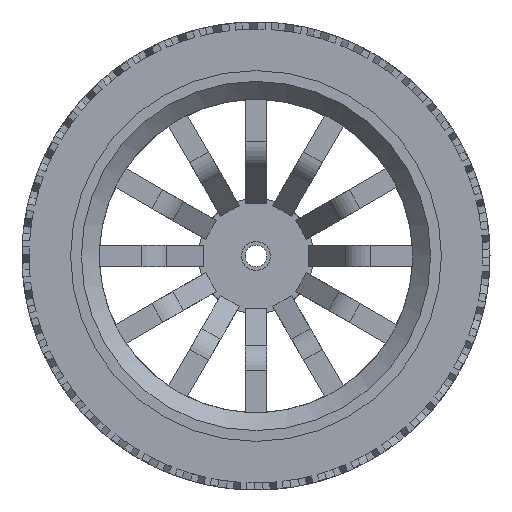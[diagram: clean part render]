
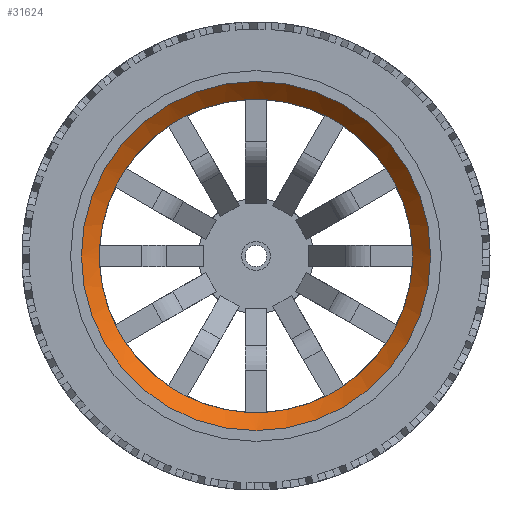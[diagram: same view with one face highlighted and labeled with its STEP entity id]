
A CAD part, front view. The second image highlights one B-rep face of the part: STEP entity #31624.
In plain terms, the highlighted conical face has half-angle 45 degrees and reference radius 23 mm.
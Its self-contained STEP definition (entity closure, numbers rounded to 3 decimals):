
#14=CONICAL_SURFACE('',#33184,23.,0.785);
#3133=FACE_OUTER_BOUND('',#4827,.T.);
#4827=EDGE_LOOP('',(#27846,#27847,#27848,#27849,#27850,#27851,#27852,#27853,
#27854,#27855,#27856,#27857,#27858,#27859,#27860,#27861,#27862,#27863,#27864,
#27865,#27866,#27867,#27868,#27869,#27870,#27871,#27872,#27873));
#8692=LINE('',#64412,#10853);
#10853=VECTOR('',#38423,23.);
#11471=CIRCLE('',#33006,21.75);
#11476=CIRCLE('',#33021,21.75);
#11482=CIRCLE('',#33035,21.75);
#11483=CIRCLE('',#33036,21.75);
#11488=CIRCLE('',#33051,21.75);
#11493=CIRCLE('',#33064,21.75);
#11498=CIRCLE('',#33079,21.75);
#11503=CIRCLE('',#33092,21.75);
#11508=CIRCLE('',#33107,21.75);
#11514=CIRCLE('',#33121,21.75);
#11519=CIRCLE('',#33136,21.75);
#11524=CIRCLE('',#33149,21.75);
#11542=CIRCLE('',#33183,21.75);
#11543=CIRCLE('',#33185,24.25);
#11544=CIRCLE('',#33186,21.75);
#11545=CIRCLE('',#33187,21.75);
#11546=CIRCLE('',#33188,21.75);
#11547=CIRCLE('',#33189,21.75);
#11548=CIRCLE('',#33190,21.75);
#11549=CIRCLE('',#33191,21.75);
#11550=CIRCLE('',#33192,21.75);
#11551=CIRCLE('',#33193,21.75);
#11552=CIRCLE('',#33194,21.75);
#11553=CIRCLE('',#33195,21.75);
#11554=CIRCLE('',#33196,21.75);
#11555=CIRCLE('',#33197,21.75);
#14307=VERTEX_POINT('',#63674);
#14317=VERTEX_POINT('',#63704);
#14332=VERTEX_POINT('',#63743);
#14340=VERTEX_POINT('',#63769);
#14348=VERTEX_POINT('',#63791);
#14359=VERTEX_POINT('',#63823);
#14360=VERTEX_POINT('',#63828);
#14375=VERTEX_POINT('',#63864);
#14383=VERTEX_POINT('',#63890);
#14391=VERTEX_POINT('',#63912);
#14401=VERTEX_POINT('',#63942);
#14415=VERTEX_POINT('',#63979);
#14424=VERTEX_POINT('',#64007);
#14432=VERTEX_POINT('',#64029);
#14442=VERTEX_POINT('',#64059);
#14457=VERTEX_POINT('',#64098);
#14465=VERTEX_POINT('',#64124);
#14473=VERTEX_POINT('',#64146);
#14484=VERTEX_POINT('',#64178);
#14499=VERTEX_POINT('',#64217);
#14507=VERTEX_POINT('',#64243);
#14515=VERTEX_POINT('',#64265);
#14525=VERTEX_POINT('',#64295);
#14549=VERTEX_POINT('',#64381);
#14555=VERTEX_POINT('',#64403);
#14556=VERTEX_POINT('',#64410);
#18734=EDGE_CURVE('',#14307,#14317,#11471,.T.);
#18766=EDGE_CURVE('',#14332,#14340,#11476,.T.);
#18793=EDGE_CURVE('',#14348,#14360,#11482,.T.);
#18794=EDGE_CURVE('',#14360,#14359,#11483,.T.);
#18826=EDGE_CURVE('',#14375,#14383,#11488,.T.);
#18852=EDGE_CURVE('',#14391,#14401,#11493,.T.);
#18884=EDGE_CURVE('',#14415,#14424,#11498,.T.);
#18910=EDGE_CURVE('',#14432,#14442,#11503,.T.);
#18942=EDGE_CURVE('',#14457,#14465,#11508,.T.);
#18969=EDGE_CURVE('',#14473,#14484,#11514,.T.);
#19001=EDGE_CURVE('',#14499,#14507,#11519,.T.);
#19027=EDGE_CURVE('',#14515,#14525,#11524,.T.);
#19089=EDGE_CURVE('',#14549,#14555,#11542,.T.);
#19090=EDGE_CURVE('',#14556,#14556,#11543,.T.);
#19091=EDGE_CURVE('',#14556,#14360,#8692,.T.);
#19092=EDGE_CURVE('',#14359,#14375,#11544,.T.);
#19093=EDGE_CURVE('',#14383,#14391,#11545,.T.);
#19094=EDGE_CURVE('',#14401,#14415,#11546,.T.);
#19095=EDGE_CURVE('',#14424,#14432,#11547,.T.);
#19096=EDGE_CURVE('',#14442,#14457,#11548,.T.);
#19097=EDGE_CURVE('',#14465,#14473,#11549,.T.);
#19098=EDGE_CURVE('',#14484,#14499,#11550,.T.);
#19099=EDGE_CURVE('',#14507,#14515,#11551,.T.);
#19100=EDGE_CURVE('',#14525,#14549,#11552,.T.);
#19101=EDGE_CURVE('',#14555,#14307,#11553,.T.);
#19102=EDGE_CURVE('',#14317,#14332,#11554,.T.);
#19103=EDGE_CURVE('',#14340,#14348,#11555,.T.);
#27846=ORIENTED_EDGE('',*,*,#19090,.T.);
#27847=ORIENTED_EDGE('',*,*,#19091,.T.);
#27848=ORIENTED_EDGE('',*,*,#18794,.T.);
#27849=ORIENTED_EDGE('',*,*,#19092,.T.);
#27850=ORIENTED_EDGE('',*,*,#18826,.T.);
#27851=ORIENTED_EDGE('',*,*,#19093,.T.);
#27852=ORIENTED_EDGE('',*,*,#18852,.T.);
#27853=ORIENTED_EDGE('',*,*,#19094,.T.);
#27854=ORIENTED_EDGE('',*,*,#18884,.T.);
#27855=ORIENTED_EDGE('',*,*,#19095,.T.);
#27856=ORIENTED_EDGE('',*,*,#18910,.T.);
#27857=ORIENTED_EDGE('',*,*,#19096,.T.);
#27858=ORIENTED_EDGE('',*,*,#18942,.T.);
#27859=ORIENTED_EDGE('',*,*,#19097,.T.);
#27860=ORIENTED_EDGE('',*,*,#18969,.T.);
#27861=ORIENTED_EDGE('',*,*,#19098,.T.);
#27862=ORIENTED_EDGE('',*,*,#19001,.T.);
#27863=ORIENTED_EDGE('',*,*,#19099,.T.);
#27864=ORIENTED_EDGE('',*,*,#19027,.T.);
#27865=ORIENTED_EDGE('',*,*,#19100,.T.);
#27866=ORIENTED_EDGE('',*,*,#19089,.T.);
#27867=ORIENTED_EDGE('',*,*,#19101,.T.);
#27868=ORIENTED_EDGE('',*,*,#18734,.T.);
#27869=ORIENTED_EDGE('',*,*,#19102,.T.);
#27870=ORIENTED_EDGE('',*,*,#18766,.T.);
#27871=ORIENTED_EDGE('',*,*,#19103,.T.);
#27872=ORIENTED_EDGE('',*,*,#18793,.T.);
#27873=ORIENTED_EDGE('',*,*,#19091,.F.);
#31624=ADVANCED_FACE('',(#3133),#14,.F.);
#33006=AXIS2_PLACEMENT_3D('',#63709,#37779,#37780);
#33021=AXIS2_PLACEMENT_3D('',#63774,#37836,#37837);
#33035=AXIS2_PLACEMENT_3D('',#63829,#37885,#37886);
#33036=AXIS2_PLACEMENT_3D('',#63830,#37887,#37888);
#33051=AXIS2_PLACEMENT_3D('',#63895,#37944,#37945);
#33064=AXIS2_PLACEMENT_3D('',#63947,#37991,#37992);
#33079=AXIS2_PLACEMENT_3D('',#64012,#38048,#38049);
#33092=AXIS2_PLACEMENT_3D('',#64064,#38095,#38096);
#33107=AXIS2_PLACEMENT_3D('',#64129,#38152,#38153);
#33121=AXIS2_PLACEMENT_3D('',#64183,#38201,#38202);
#33136=AXIS2_PLACEMENT_3D('',#64248,#38258,#38259);
#33149=AXIS2_PLACEMENT_3D('',#64300,#38305,#38306);
#33183=AXIS2_PLACEMENT_3D('',#64408,#38417,#38418);
#33184=AXIS2_PLACEMENT_3D('',#64409,#38419,#38420);
#33185=AXIS2_PLACEMENT_3D('',#64411,#38421,#38422);
#33186=AXIS2_PLACEMENT_3D('',#64413,#38424,#38425);
#33187=AXIS2_PLACEMENT_3D('',#64414,#38426,#38427);
#33188=AXIS2_PLACEMENT_3D('',#64415,#38428,#38429);
#33189=AXIS2_PLACEMENT_3D('',#64416,#38430,#38431);
#33190=AXIS2_PLACEMENT_3D('',#64417,#38432,#38433);
#33191=AXIS2_PLACEMENT_3D('',#64418,#38434,#38435);
#33192=AXIS2_PLACEMENT_3D('',#64419,#38436,#38437);
#33193=AXIS2_PLACEMENT_3D('',#64420,#38438,#38439);
#33194=AXIS2_PLACEMENT_3D('',#64421,#38440,#38441);
#33195=AXIS2_PLACEMENT_3D('',#64422,#38442,#38443);
#33196=AXIS2_PLACEMENT_3D('',#64423,#38444,#38445);
#33197=AXIS2_PLACEMENT_3D('',#64424,#38446,#38447);
#37779=DIRECTION('center_axis',(0.,1.,0.));
#37780=DIRECTION('ref_axis',(-1.,0.,0.));
#37836=DIRECTION('center_axis',(0.,1.,0.));
#37837=DIRECTION('ref_axis',(-1.,0.,0.));
#37885=DIRECTION('center_axis',(0.,1.,0.));
#37886=DIRECTION('ref_axis',(-1.,0.,0.));
#37887=DIRECTION('center_axis',(0.,1.,0.));
#37888=DIRECTION('ref_axis',(-1.,0.,0.));
#37944=DIRECTION('center_axis',(0.,1.,0.));
#37945=DIRECTION('ref_axis',(-1.,0.,0.));
#37991=DIRECTION('center_axis',(0.,1.,0.));
#37992=DIRECTION('ref_axis',(-1.,0.,0.));
#38048=DIRECTION('center_axis',(0.,1.,0.));
#38049=DIRECTION('ref_axis',(-1.,0.,0.));
#38095=DIRECTION('center_axis',(0.,1.,0.));
#38096=DIRECTION('ref_axis',(-1.,0.,0.));
#38152=DIRECTION('center_axis',(0.,1.,0.));
#38153=DIRECTION('ref_axis',(-1.,0.,0.));
#38201=DIRECTION('center_axis',(0.,1.,0.));
#38202=DIRECTION('ref_axis',(-1.,0.,0.));
#38258=DIRECTION('center_axis',(0.,1.,0.));
#38259=DIRECTION('ref_axis',(-1.,0.,0.));
#38305=DIRECTION('center_axis',(0.,1.,0.));
#38306=DIRECTION('ref_axis',(-1.,0.,0.));
#38417=DIRECTION('center_axis',(0.,1.,0.));
#38418=DIRECTION('ref_axis',(-1.,0.,0.));
#38419=DIRECTION('center_axis',(0.,-1.,0.));
#38420=DIRECTION('ref_axis',(-1.,0.,0.));
#38421=DIRECTION('center_axis',(0.,-1.,0.));
#38422=DIRECTION('ref_axis',(-1.,0.,0.));
#38423=DIRECTION('',(-0.707,0.707,0.));
#38424=DIRECTION('center_axis',(0.,1.,0.));
#38425=DIRECTION('ref_axis',(-1.,0.,0.));
#38426=DIRECTION('center_axis',(0.,1.,0.));
#38427=DIRECTION('ref_axis',(-1.,0.,0.));
#38428=DIRECTION('center_axis',(0.,1.,0.));
#38429=DIRECTION('ref_axis',(-1.,0.,0.));
#38430=DIRECTION('center_axis',(0.,1.,0.));
#38431=DIRECTION('ref_axis',(-1.,0.,0.));
#38432=DIRECTION('center_axis',(0.,1.,0.));
#38433=DIRECTION('ref_axis',(-1.,0.,0.));
#38434=DIRECTION('center_axis',(0.,1.,0.));
#38435=DIRECTION('ref_axis',(-1.,0.,0.));
#38436=DIRECTION('center_axis',(0.,1.,0.));
#38437=DIRECTION('ref_axis',(-1.,0.,0.));
#38438=DIRECTION('center_axis',(0.,1.,0.));
#38439=DIRECTION('ref_axis',(-1.,0.,0.));
#38440=DIRECTION('center_axis',(0.,1.,0.));
#38441=DIRECTION('ref_axis',(-1.,0.,0.));
#38442=DIRECTION('center_axis',(0.,1.,0.));
#38443=DIRECTION('ref_axis',(-1.,0.,0.));
#38444=DIRECTION('center_axis',(0.,1.,0.));
#38445=DIRECTION('ref_axis',(-1.,0.,0.));
#38446=DIRECTION('center_axis',(0.,1.,0.));
#38447=DIRECTION('ref_axis',(-1.,0.,0.));
#63674=CARTESIAN_POINT('',(9.55,-23.9,19.541));
#63704=CARTESIAN_POINT('',(12.148,-23.9,18.041));
#63709=CARTESIAN_POINT('Origin',(0.,-23.9,0.));
#63743=CARTESIAN_POINT('',(18.041,-23.9,12.148));
#63769=CARTESIAN_POINT('',(19.541,-23.9,9.55));
#63774=CARTESIAN_POINT('Origin',(0.,-23.9,0.));
#63791=CARTESIAN_POINT('',(21.698,-23.9,1.5));
#63823=CARTESIAN_POINT('',(21.698,-23.9,-1.5));
#63828=CARTESIAN_POINT('',(21.75,-23.9,0.));
#63829=CARTESIAN_POINT('Origin',(0.,-23.9,0.));
#63830=CARTESIAN_POINT('Origin',(0.,-23.9,0.));
#63864=CARTESIAN_POINT('',(19.541,-23.9,-9.55));
#63890=CARTESIAN_POINT('',(18.041,-23.9,-12.148));
#63895=CARTESIAN_POINT('Origin',(0.,-23.9,0.));
#63912=CARTESIAN_POINT('',(12.148,-23.9,-18.041));
#63942=CARTESIAN_POINT('',(9.55,-23.9,-19.541));
#63947=CARTESIAN_POINT('Origin',(0.,-23.9,0.));
#63979=CARTESIAN_POINT('',(1.5,-23.9,-21.698));
#64007=CARTESIAN_POINT('',(-1.5,-23.9,-21.698));
#64012=CARTESIAN_POINT('Origin',(0.,-23.9,0.));
#64029=CARTESIAN_POINT('',(-9.55,-23.9,-19.541));
#64059=CARTESIAN_POINT('',(-12.148,-23.9,-18.041));
#64064=CARTESIAN_POINT('Origin',(0.,-23.9,0.));
#64098=CARTESIAN_POINT('',(-18.041,-23.9,-12.148));
#64124=CARTESIAN_POINT('',(-19.541,-23.9,-9.55));
#64129=CARTESIAN_POINT('Origin',(0.,-23.9,0.));
#64146=CARTESIAN_POINT('',(-21.698,-23.9,-1.5));
#64178=CARTESIAN_POINT('',(-21.698,-23.9,1.5));
#64183=CARTESIAN_POINT('Origin',(0.,-23.9,0.));
#64217=CARTESIAN_POINT('',(-19.541,-23.9,9.55));
#64243=CARTESIAN_POINT('',(-18.041,-23.9,12.148));
#64248=CARTESIAN_POINT('Origin',(0.,-23.9,0.));
#64265=CARTESIAN_POINT('',(-12.148,-23.9,18.041));
#64295=CARTESIAN_POINT('',(-9.55,-23.9,19.541));
#64300=CARTESIAN_POINT('Origin',(0.,-23.9,0.));
#64381=CARTESIAN_POINT('',(-1.5,-23.9,21.698));
#64403=CARTESIAN_POINT('',(1.5,-23.9,21.698));
#64408=CARTESIAN_POINT('Origin',(0.,-23.9,0.));
#64409=CARTESIAN_POINT('Origin',(0.,-25.15,0.));
#64410=CARTESIAN_POINT('',(24.25,-26.4,0.));
#64411=CARTESIAN_POINT('Origin',(0.,-26.4,0.));
#64412=CARTESIAN_POINT('',(23.,-25.15,0.));
#64413=CARTESIAN_POINT('Origin',(0.,-23.9,0.));
#64414=CARTESIAN_POINT('Origin',(0.,-23.9,0.));
#64415=CARTESIAN_POINT('Origin',(0.,-23.9,0.));
#64416=CARTESIAN_POINT('Origin',(0.,-23.9,0.));
#64417=CARTESIAN_POINT('Origin',(0.,-23.9,0.));
#64418=CARTESIAN_POINT('Origin',(0.,-23.9,0.));
#64419=CARTESIAN_POINT('Origin',(0.,-23.9,0.));
#64420=CARTESIAN_POINT('Origin',(0.,-23.9,0.));
#64421=CARTESIAN_POINT('Origin',(0.,-23.9,0.));
#64422=CARTESIAN_POINT('Origin',(0.,-23.9,0.));
#64423=CARTESIAN_POINT('Origin',(0.,-23.9,0.));
#64424=CARTESIAN_POINT('Origin',(0.,-23.9,0.));
